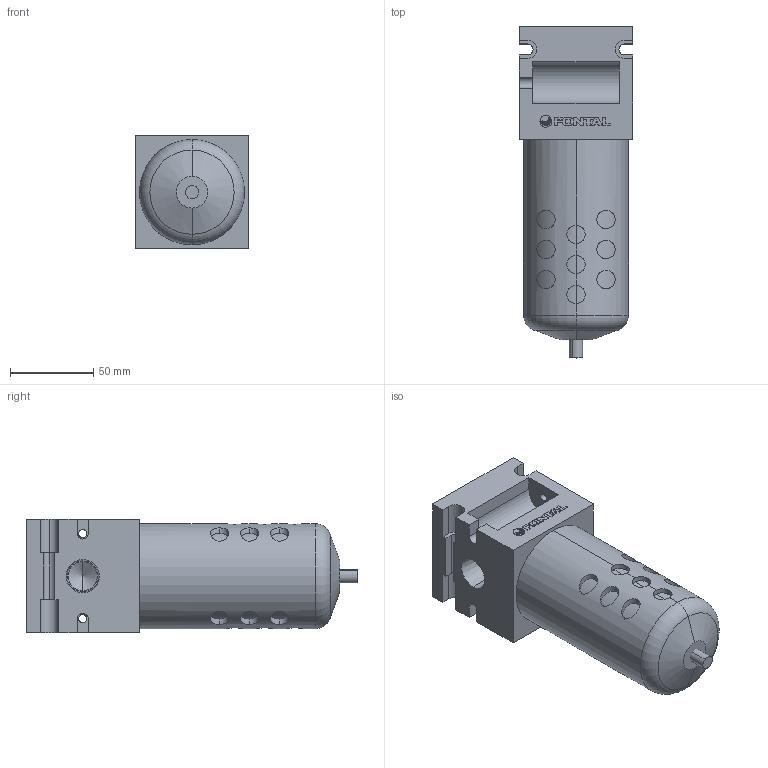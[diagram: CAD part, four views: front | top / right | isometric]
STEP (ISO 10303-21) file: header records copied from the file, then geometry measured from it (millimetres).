
FILE_DESCRIPTION (( 'STEP AP203' ), '1' );
FILE_NAME ('F105-04#Y#.STEP', '2016-01-14T18:58:23', ( '' ), ( '' ), 'SwSTEP 2.0', 'SolidWorks 2014', '' );
FILE_SCHEMA (( 'CONFIG_CONTROL_DESIGN' ));
Length unit declared in the file: millimetre
Products named in the file (5): F105-04#Y#; Y排水; F105-1; F105-MARK; F105-2
Assembly tree (4 placements, depth 2):
  F105-04#Y#
    F105-1
    F105-2
    Y排水
    F105-MARK
Bounding box: 68 x 199 x 68.2 mm (x, y, z)
Volume: 595138.8 mm3; surface area: 69497.8 mm2
Topology: 10 solids, 10 shells, 238 faces, 600 edges, 394 vertices
Faces by surface type: plane 109, cylinder 107, cone 12, bspline 8, torus 2
Entity records: 10355 total; most frequent: CARTESIAN_POINT 4237, ORIENTED_EDGE 1192, DIRECTION 1078, EDGE_CURVE 596, VERTEX_POINT 394, LINE 376, VECTOR 376, AXIS2_PLACEMENT_3D 351
